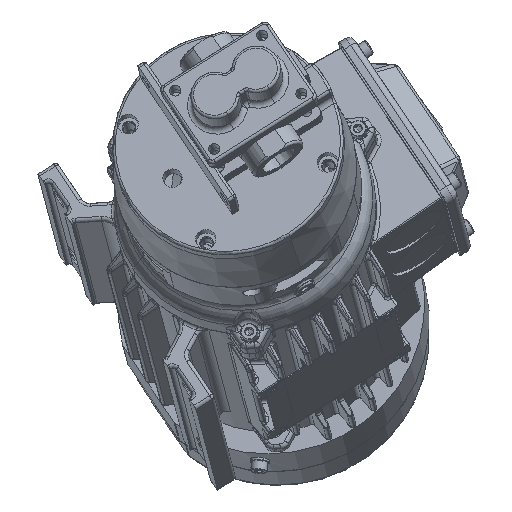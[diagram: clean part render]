
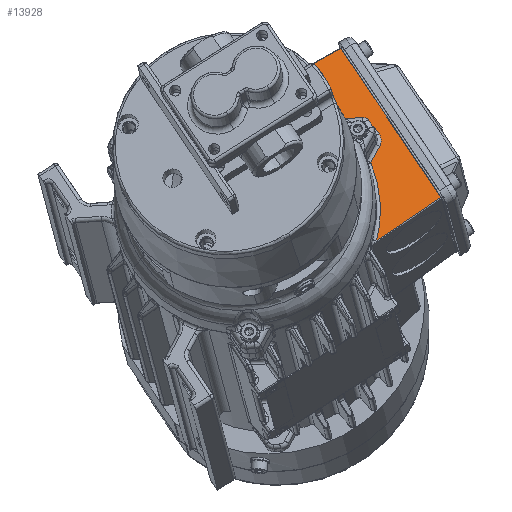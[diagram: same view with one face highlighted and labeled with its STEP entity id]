
A CAD part, top view. The second image highlights one B-rep face of the part: STEP entity #13928.
In plain terms, the highlighted planar face has unit normal (-0.04, 0.307, 0.951).
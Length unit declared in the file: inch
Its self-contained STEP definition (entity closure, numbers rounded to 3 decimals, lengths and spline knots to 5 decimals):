
#1096 = CARTESIAN_POINT ( 'NONE',  ( 1.30468, 6.563, -1.20865 ) ) ;
#1411 = ORIENTED_EDGE ( 'NONE', *, *, #70271, .T. ) ;
#1425 = CARTESIAN_POINT ( 'NONE',  ( 1.95976, 4.16415, -0.4059 ) ) ;
#2803 = LINE ( 'NONE', #48957, #77809 ) ;
#3345 = CARTESIAN_POINT ( 'NONE',  ( 1.94202, 6.4653, -1.15059 ) ) ;
#4198 = VECTOR ( 'NONE', #94396, 39.37008 ) ;
#5134 = VERTEX_POINT ( 'NONE', #94777 ) ;
#6729 = VERTEX_POINT ( 'NONE', #60447 ) ;
#6753 = CARTESIAN_POINT ( 'NONE',  ( 1.69785, 6.5837, -1.19902 ) ) ;
#7495 = CARTESIAN_POINT ( 'NONE',  ( 0.40115, 7.22925, -1.46158 ) ) ;
#9766 = DIRECTION ( 'NONE',  ( -0.039, 0.307, 0.951 ) ) ;
#11616 = DIRECTION ( 'NONE',  ( -0.536, 0.797, -0.28 ) ) ;
#13928 = ADVANCED_FACE ( 'NONE', ( #76061 ), #24045, .T. ) ;
#15032 = ORIENTED_EDGE ( 'NONE', *, *, #87236, .T. ) ;
#15355 = CARTESIAN_POINT ( 'NONE',  ( 0.9089, 6.96444, -1.35488 ) ) ;
#17432 = CARTESIAN_POINT ( 'NONE',  ( 1.95976, 4.16415, -0.4059 ) ) ;
#19825 = CARTESIAN_POINT ( 'NONE',  ( 3.50196, 5.20775, -0.67924 ) ) ;
#21290 = EDGE_CURVE ( 'NONE', #52480, #95979, #74547, .T. ) ;
#23671 = VECTOR ( 'NONE', #48188, 39.37008 ) ;
#24045 = PLANE ( 'NONE',  #38863 ) ;
#24063 = EDGE_CURVE ( 'NONE', #89425, #6729, #43971, .T. ) ;
#24538 = CARTESIAN_POINT ( 'NONE',  ( 2.09842, 4.7043, -0.57477 ) ) ;
#25684 = ORIENTED_EDGE ( 'NONE', *, *, #24063, .T. ) ;
#28216 = ORIENTED_EDGE ( 'NONE', *, *, #62334, .T. ) ;
#28809 =( BOUNDED_CURVE ( )  B_SPLINE_CURVE ( 3, ( #78687, #85588, #32619, #33565 ),
 .UNSPECIFIED., .F., .T. ) 
 B_SPLINE_CURVE_WITH_KNOTS ( ( 4, 4 ),
 ( 3.14159, 4.18879 ),
 .UNSPECIFIED. ) 
 CURVE ( )  GEOMETRIC_REPRESENTATION_ITEM ( )  RATIONAL_B_SPLINE_CURVE ( ( 1., 0.911, 0.911, 1. ) ) 
 REPRESENTATION_ITEM ( '' )  );
#29490 = CARTESIAN_POINT ( 'NONE',  ( 1.22614, 8.11353, -1.7132 ) ) ;
#31418 = CARTESIAN_POINT ( 'NONE',  ( 1.8405, 5.77037, -0.93014 ) ) ;
#32619 = CARTESIAN_POINT ( 'NONE',  ( 2.06829, 6.18784, -1.05565 ) ) ;
#33331 = CARTESIAN_POINT ( 'NONE',  ( 1.69785, 6.5837, -1.19902 ) ) ;
#33515 = ORIENTED_EDGE ( 'NONE', *, *, #70740, .T. ) ;
#33565 = CARTESIAN_POINT ( 'NONE',  ( 2.02154, 6.10217, -1.02989 ) ) ;
#33851 = VECTOR ( 'NONE', #61390, 39.37008 ) ;
#34311 = CARTESIAN_POINT ( 'NONE',  ( 1.79862, 6.58901, -1.19655 ) ) ;
#35402 = VECTOR ( 'NONE', #42977, 39.37008 ) ;
#37765 =( BOUNDED_CURVE ( )  B_SPLINE_CURVE ( 3, ( #33331, #34311, #50492, #3345 ),
 .UNSPECIFIED., .F., .T. ) 
 B_SPLINE_CURVE_WITH_KNOTS ( ( 4, 4 ),
 ( 2.0944, 3.14159 ),
 .UNSPECIFIED. ) 
 CURVE ( )  GEOMETRIC_REPRESENTATION_ITEM ( )  RATIONAL_B_SPLINE_CURVE ( ( 1., 0.911, 0.911, 1. ) ) 
 REPRESENTATION_ITEM ( '' )  );
#38863 = AXIS2_PLACEMENT_3D ( 'NONE', #77492, #9766, #75583 ) ;
#39219 = EDGE_LOOP ( 'NONE', ( #96922, #28216, #56430, #33515, #52861, #57808, #25684, #54743, #15032, #1411 ) ) ;
#40680 = CARTESIAN_POINT ( 'NONE',  ( 1.94202, 6.4653, -1.15059 ) ) ;
#42977 = DIRECTION ( 'NONE',  ( 0.536, -0.797, 0.28 ) ) ;
#43971 = LINE ( 'NONE', #65078, #35402 ) ;
#45793 = CARTESIAN_POINT ( 'NONE',  ( 1.30468, 6.563, -1.20865 ) ) ;
#46570 = DIRECTION ( 'NONE',  ( 0.998, 0.053, 0.024 ) ) ;
#47217 = VERTEX_POINT ( 'NONE', #29490 ) ;
#48188 = DIRECTION ( 'NONE',  ( -0.866, -0.485, 0.121 ) ) ;
#48957 = CARTESIAN_POINT ( 'NONE',  ( 2.25319, 6.58563, -1.17657 ) ) ;
#50492 = CARTESIAN_POINT ( 'NONE',  ( 1.888, 6.54567, -1.17882 ) ) ;
#52480 = VERTEX_POINT ( 'NONE', #1096 ) ;
#52861 = ORIENTED_EDGE ( 'NONE', *, *, #21290, .T. ) ;
#54076 = LINE ( 'NONE', #69789, #23671 ) ;
#54460 = CARTESIAN_POINT ( 'NONE',  ( 2.02154, 6.10217, -1.02989 ) ) ;
#54743 = ORIENTED_EDGE ( 'NONE', *, *, #90364, .T. ) ;
#56430 = ORIENTED_EDGE ( 'NONE', *, *, #89740, .T. ) ;
#57808 = ORIENTED_EDGE ( 'NONE', *, *, #66891, .T. ) ;
#60447 = CARTESIAN_POINT ( 'NONE',  ( 2.01006, 6.36409, -1.11505 ) ) ;
#61390 = DIRECTION ( 'NONE',  ( -0.463, -0.849, 0.255 ) ) ;
#61738 = EDGE_CURVE ( 'NONE', #72783, #85655, #64489, .T. ) ;
#62334 = EDGE_CURVE ( 'NONE', #85655, #47217, #2803, .T. ) ;
#64489 = LINE ( 'NONE', #19825, #4198 ) ;
#65078 = CARTESIAN_POINT ( 'NONE',  ( 2.01006, 6.36409, -1.11505 ) ) ;
#65757 = CARTESIAN_POINT ( 'NONE',  ( 3.28025, 5.05772, -0.63994 ) ) ;
#65905 = VERTEX_POINT ( 'NONE', #54460 ) ;
#66891 = EDGE_CURVE ( 'NONE', #95979, #89425, #37765, .T. ) ;
#68727 = CARTESIAN_POINT ( 'NONE',  ( 2.05688, 5.25664, -0.75506 ) ) ;
#69789 = CARTESIAN_POINT ( 'NONE',  ( 1.46048, 8.24478, -1.7459 ) ) ;
#70271 = EDGE_CURVE ( 'NONE', #74978, #72783, #83047, .T. ) ;
#70740 = EDGE_CURVE ( 'NONE', #5134, #52480, #89932, .T. ) ;
#72783 = VERTEX_POINT ( 'NONE', #17432 ) ;
#73543 = CARTESIAN_POINT ( 'NONE',  ( 1.83915, 5.7679, -0.9294 ) ) ;
#74547 = LINE ( 'NONE', #82402, #86461 ) ;
#74978 = VERTEX_POINT ( 'NONE', #73543 ) ;
#75128 = LINE ( 'NONE', #31418, #33851 ) ;
#75583 = DIRECTION ( 'NONE',  ( -0.536, 0.797, -0.28 ) ) ;
#76061 = FACE_OUTER_BOUND ( 'NONE', #39219, .T. ) ;
#77492 = CARTESIAN_POINT ( 'NONE',  ( 2.41109, 6.68301, -1.2015 ) ) ;
#77809 = VECTOR ( 'NONE', #11616, 39.37008 ) ;
#78687 = CARTESIAN_POINT ( 'NONE',  ( 2.01006, 6.36409, -1.11505 ) ) ;
#82402 = CARTESIAN_POINT ( 'NONE',  ( 1.70076, 6.58386, -1.19895 ) ) ;
#83047 =( BOUNDED_CURVE ( )  B_SPLINE_CURVE ( 3, ( #91781, #68727, #24538, #1425 ),
 .UNSPECIFIED., .F., .T. ) 
 B_SPLINE_CURVE_WITH_KNOTS ( ( 4, 4 ),
 ( 0.18205, 0.80569 ),
 .UNSPECIFIED. ) 
 CURVE ( )  GEOMETRIC_REPRESENTATION_ITEM ( )  RATIONAL_B_SPLINE_CURVE ( ( 1., 0.968, 0.968, 1. ) ) 
 REPRESENTATION_ITEM ( '' )  );
#83085 = CARTESIAN_POINT ( 'NONE',  ( -0.16957, 7.33187, -1.51846 ) ) ;
#85588 = CARTESIAN_POINT ( 'NONE',  ( 2.06408, 6.28371, -1.08682 ) ) ;
#85655 = VERTEX_POINT ( 'NONE', #65757 ) ;
#86461 = VECTOR ( 'NONE', #46570, 39.37008 ) ;
#87236 = EDGE_CURVE ( 'NONE', #65905, #74978, #75128, .T. ) ;
#89425 = VERTEX_POINT ( 'NONE', #40680 ) ;
#89740 = EDGE_CURVE ( 'NONE', #47217, #5134, #54076, .T. ) ;
#89932 =( BOUNDED_CURVE ( )  B_SPLINE_CURVE ( 3, ( #83085, #7495, #15355, #45793 ),
 .UNSPECIFIED., .F., .T. ) 
 B_SPLINE_CURVE_WITH_KNOTS ( ( 4, 4 ),
 ( 5.4775, 6.10113 ),
 .UNSPECIFIED. ) 
 CURVE ( )  GEOMETRIC_REPRESENTATION_ITEM ( )  RATIONAL_B_SPLINE_CURVE ( ( 1., 0.968, 0.968, 1. ) ) 
 REPRESENTATION_ITEM ( '' )  );
#90364 = EDGE_CURVE ( 'NONE', #6729, #65905, #28809, .T. ) ;
#91781 = CARTESIAN_POINT ( 'NONE',  ( 1.83915, 5.7679, -0.9294 ) ) ;
#94396 = DIRECTION ( 'NONE',  ( 0.819, 0.554, -0.145 ) ) ;
#94777 = CARTESIAN_POINT ( 'NONE',  ( -0.16957, 7.33187, -1.51846 ) ) ;
#95979 = VERTEX_POINT ( 'NONE', #6753 ) ;
#96922 = ORIENTED_EDGE ( 'NONE', *, *, #61738, .T. ) ;
